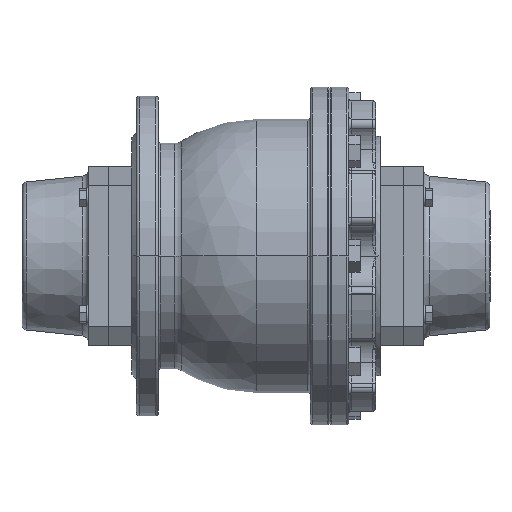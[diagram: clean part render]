
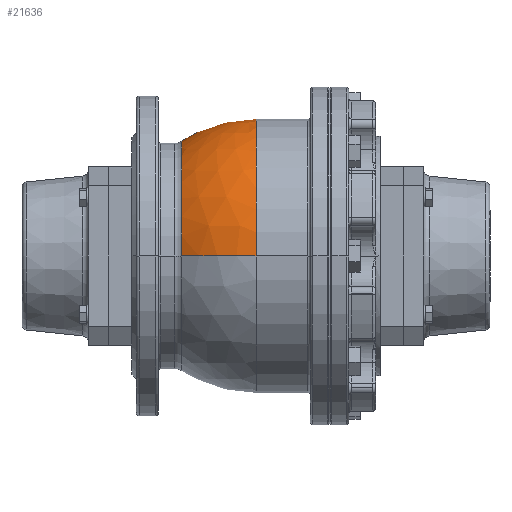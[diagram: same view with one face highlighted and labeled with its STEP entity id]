
A CAD part, front view. The second image highlights one B-rep face of the part: STEP entity #21636.
In plain terms, the highlighted spherical face has radius 107 mm.
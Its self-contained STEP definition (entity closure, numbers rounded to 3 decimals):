
#3816 = CARTESIAN_POINT ( 'NONE',  ( -58.094, -89.856, 0. ) ) ;
#3819 = CARTESIAN_POINT ( 'NONE',  ( -58.094, 89.856, 0. ) ) ;
#11401 = ORIENTED_EDGE ( 'NONE', *, *, #14790, .F. ) ;
#11402 = ORIENTED_EDGE ( 'NONE', *, *, #14789, .T. ) ;
#11403 = ORIENTED_EDGE ( 'NONE', *, *, #14788, .F. ) ;
#11404 = ORIENTED_EDGE ( 'NONE', *, *, #14787, .T. ) ;
#11405 = ORIENTED_EDGE ( 'NONE', *, *, #14786, .T. ) ;
#13523 = CARTESIAN_POINT ( 'NONE',  ( 0., 0., 0. ) ) ;
#13526 = FACE_OUTER_BOUND ( 'NONE', #20035, .T. ) ;
#13527 = SPHERICAL_SURFACE ( 'NONE', #22440, 107. ) ;
#13529 = DIRECTION ( 'NONE',  ( 0., 0., 1. ) ) ;
#13530 = DIRECTION ( 'NONE',  ( 0., 1., 0. ) ) ;
#14056 = VERTEX_POINT ( 'NONE', #24358 ) ;
#14070 = VERTEX_POINT ( 'NONE', #24365 ) ;
#14085 = VERTEX_POINT ( 'NONE', #24377 ) ;
#14786 = EDGE_CURVE ( 'NONE', #17664, #17661, #29361, .T. ) ;
#14787 = EDGE_CURVE ( 'NONE', #17661, #14056, #29340, .T. ) ;
#14788 = EDGE_CURVE ( 'NONE', #14070, #14056, #29365, .T. ) ;
#14789 = EDGE_CURVE ( 'NONE', #14070, #14085, #29363, .T. ) ;
#14790 = EDGE_CURVE ( 'NONE', #17664, #14085, #29369, .T. ) ;
#17661 = VERTEX_POINT ( 'NONE', #3816 ) ;
#17664 = VERTEX_POINT ( 'NONE', #3819 ) ;
#20035 = EDGE_LOOP ( 'NONE', ( #11405, #11404, #11403, #11402, #11401 ) ) ;
#21636 = ADVANCED_FACE ( 'NONE', ( #13526 ), #13527, .T. ) ;
#22440 = AXIS2_PLACEMENT_3D ( 'NONE', #13523, #13529, #13530 ) ;
#24358 = CARTESIAN_POINT ( 'NONE',  ( 0., -107., 0. ) ) ;
#24365 = CARTESIAN_POINT ( 'NONE',  ( 0., 102.372, 31.127 ) ) ;
#24377 = CARTESIAN_POINT ( 'NONE',  ( -31.127, 102.372, 0. ) ) ;
#26543 = CARTESIAN_POINT ( 'NONE',  ( -58.094, 0., 0. ) ) ;
#26544 = DIRECTION ( 'NONE',  ( 1., 0., 0. ) ) ;
#26545 = DIRECTION ( 'NONE',  ( 0., 1., 0. ) ) ;
#26546 = CARTESIAN_POINT ( 'NONE',  ( 0., 0., 0. ) ) ;
#26547 = DIRECTION ( 'NONE',  ( 0., 0., 1. ) ) ;
#26548 = DIRECTION ( 'NONE',  ( 0., -1., 0. ) ) ;
#26550 = CARTESIAN_POINT ( 'NONE',  ( 0., 0., 0. ) ) ;
#26551 = DIRECTION ( 'NONE',  ( 1., 0., 0. ) ) ;
#26552 = DIRECTION ( 'NONE',  ( 0., 1., 0. ) ) ;
#26554 = CARTESIAN_POINT ( 'NONE',  ( 0., 102.372, 0. ) ) ;
#26555 = DIRECTION ( 'NONE',  ( 0., -1., 0. ) ) ;
#26556 = DIRECTION ( 'NONE',  ( 0., 0., -1. ) ) ;
#26559 = CARTESIAN_POINT ( 'NONE',  ( 0., 0., 0. ) ) ;
#26560 = DIRECTION ( 'NONE',  ( 0., 0., -1. ) ) ;
#26561 = DIRECTION ( 'NONE',  ( -1., 0., 0. ) ) ;
#29340 = CIRCLE ( 'NONE', #29366, 107. ) ;
#29361 = CIRCLE ( 'NONE', #29364, 89.856 ) ;
#29363 = CIRCLE ( 'NONE', #29370, 31.127 ) ;
#29364 = AXIS2_PLACEMENT_3D ( 'NONE', #26543, #26544, #26545 ) ;
#29365 = CIRCLE ( 'NONE', #29368, 107. ) ;
#29366 = AXIS2_PLACEMENT_3D ( 'NONE', #26546, #26547, #26548 ) ;
#29368 = AXIS2_PLACEMENT_3D ( 'NONE', #26550, #26551, #26552 ) ;
#29369 = CIRCLE ( 'NONE', #29372, 107. ) ;
#29370 = AXIS2_PLACEMENT_3D ( 'NONE', #26554, #26555, #26556 ) ;
#29372 = AXIS2_PLACEMENT_3D ( 'NONE', #26559, #26560, #26561 ) ;
